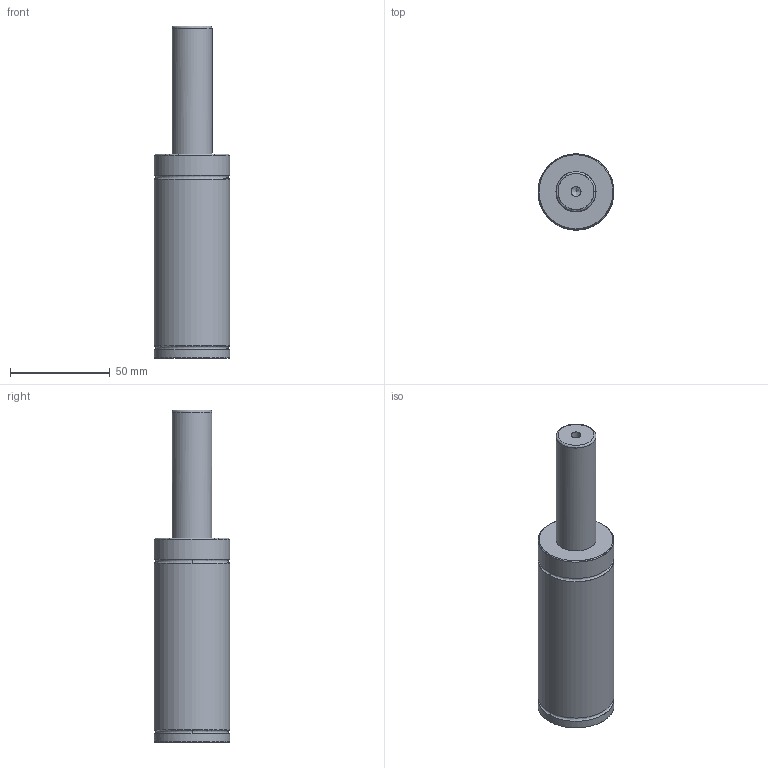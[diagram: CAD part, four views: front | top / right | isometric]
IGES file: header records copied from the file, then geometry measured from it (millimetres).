
Start section: VISI Layer Mapping Iges    VISI  0      LAYER_EMPTY  1      wwww  7      W_PD700  8      S_PD700  10     W_PD1000  11     S_PD1000  13     W_PD2000  14     S_PD2000  16     W_PD3000  17     S_PD3000  19     W_PD4000  20     S_PD4000  22     W_PD7000  23     S_PD7000  28     W_350  29     MS-350  30     MC-350  31     MP-350  32     MB-350  33     MH-350  34     MK-350  35     MPL-350  39     W_500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
Global section: file name: E:\だ錶臢\だ錶臢3D\SYLINDER\PT Series\PT500\PT500\PT500-63.igs; native system: VISI 16.0; preprocessor: 2.0; author: 11; organization: 0; date: 500.; units: mil
Bounding box: 38 x 38 x 166 mm (x, y, z)
Surface area: 19527.8 mm2 (no closed solid volume)
Topology: 0 solids, 0 shells, 19 faces, 221 edges, 196 vertices
Faces by surface type: bspline 19
